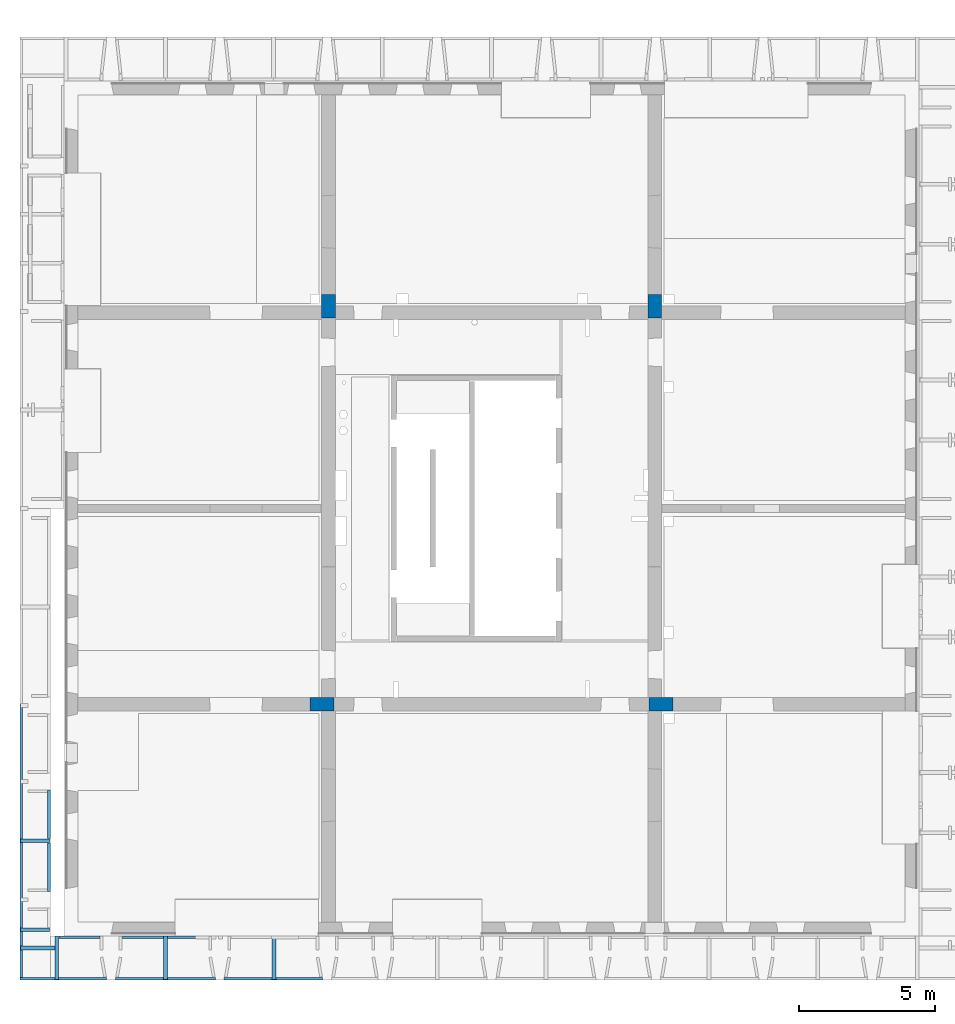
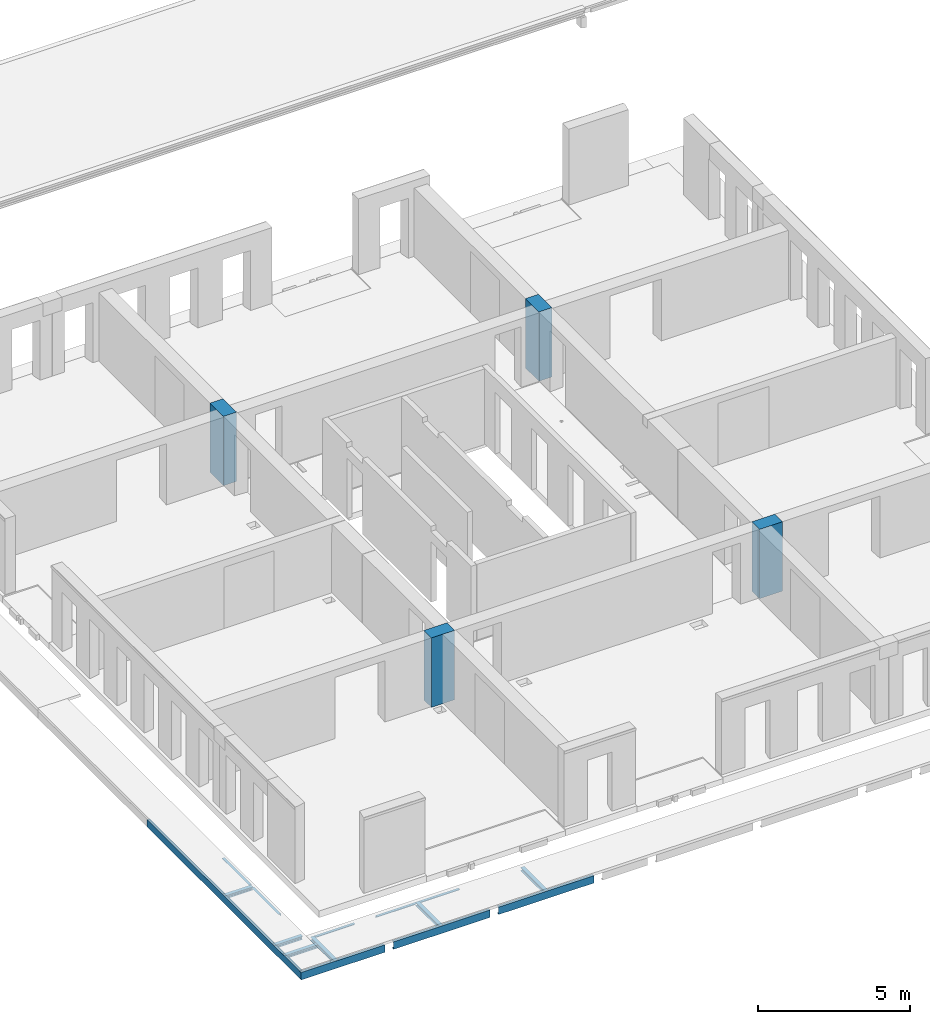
# One storey, part 1 of 27: 15 beams, 4 columns.
"""IFC2X3 building model written with IfcOpenShell, lengths in millimetres."""

from ifc_helpers import new_model, entity, si_unit, converted_unit, derived_unit, direction, frame, frame_2d, origin, origin_2d_with_axis, place, context, subcontext, project, spatial, polyline, circle_curve, parameter, trimmed, segment, composite_curve, rectangle, i_section, outline, extrude, source, transform, mapped, material, type_object, type_shapes, element, save


model = new_model("IFC2X3")

# Units and contexts
model_context = context("Model", 3, precision=0.01, world=origin(), true_north=direction((6.12303176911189e-17, 1.0)))
body_context = subcontext(model_context, "Body", "Model", "MODEL_VIEW")
ifc_project = project(units=[si_unit("LENGTHUNIT", "METRE", prefix="MILLI"), si_unit("AREAUNIT", "SQUARE_METRE"), si_unit("VOLUMEUNIT", "CUBIC_METRE"), converted_unit("PLANEANGLEUNIT", "DEGREE", entity("IfcRatioMeasure", 0.0174532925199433), si_unit("PLANEANGLEUNIT", "RADIAN"), dimensions=[0, 0, 0, 0, 0, 0, 0]), si_unit("MASSUNIT", "GRAM", prefix="KILO"), derived_unit("MASSDENSITYUNIT", [(si_unit("MASSUNIT", "GRAM", prefix="KILO"), 1), (si_unit("LENGTHUNIT", "METRE"), -3)]), si_unit("TIMEUNIT", "SECOND"), si_unit("FREQUENCYUNIT", "HERTZ"), si_unit("THERMODYNAMICTEMPERATUREUNIT", "DEGREE_CELSIUS"), derived_unit("THERMALTRANSMITTANCEUNIT", [(si_unit("MASSUNIT", "GRAM", prefix="KILO"), 1), (si_unit("THERMODYNAMICTEMPERATUREUNIT", "KELVIN"), -1), (si_unit("TIMEUNIT", "SECOND"), -3)]), derived_unit("VOLUMETRICFLOWRATEUNIT", [(si_unit("LENGTHUNIT", "METRE"), 3), (si_unit("TIMEUNIT", "SECOND"), -1)]), si_unit("ELECTRICCURRENTUNIT", "AMPERE"), si_unit("ELECTRICVOLTAGEUNIT", "VOLT"), si_unit("POWERUNIT", "WATT"), si_unit("FORCEUNIT", "NEWTON", prefix="KILO"), si_unit("ILLUMINANCEUNIT", "LUX"), si_unit("LUMINOUSFLUXUNIT", "LUMEN"), si_unit("LUMINOUSINTENSITYUNIT", "CANDELA"), derived_unit("USERDEFINED", [(si_unit("MASSUNIT", "GRAM", prefix="KILO"), -1), (si_unit("LENGTHUNIT", "METRE"), -2), (si_unit("TIMEUNIT", "SECOND"), 3), (si_unit("LUMINOUSFLUXUNIT", "LUMEN"), 1)]), derived_unit("LINEARVELOCITYUNIT", [(si_unit("LENGTHUNIT", "METRE"), 1), (si_unit("TIMEUNIT", "SECOND"), -1)]), si_unit("PRESSUREUNIT", "PASCAL"), derived_unit("USERDEFINED", [(si_unit("LENGTHUNIT", "METRE"), -2), (si_unit("MASSUNIT", "GRAM", prefix="KILO"), 1), (si_unit("TIMEUNIT", "SECOND"), -2)])], contexts=[model_context])

# Site, building, storey
site_placement = place(None, origin())
site = spatial("IfcSite", under=ifc_project, at=site_placement, Name="Default", CompositionType="ELEMENT")
building_placement = place(site_placement, origin())
building = spatial("IfcBuilding", under=site, at=building_placement, Name="niet gebruiken", CompositionType="ELEMENT")
storey_placement = place(building_placement, frame((0.0, 0.0, 18000.0)))
storey = spatial("IfcBuildingStorey", under=building, at=storey_placement, Name="05 vijfde verdieping", CompositionType="ELEMENT", Elevation=18000.0)

# Columns
ifc_material_1 = material(Name="NLRS_f2_beton ihwg")
column_type_1 = type_object("IfcColumnType", Name="500x880", PredefinedType="COLUMN", material=ifc_material_1)
shared_shape_1 = source(origin(), body_context, "Body", "SweptSolid", [
    extrude(rectangle(XDim=879.999999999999, YDim=500.000000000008, at=origin_2d_with_axis()), frame((135750.003540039, 24940.0, 17910.0), z_axis=(0.0, 0.0, 1.0), x_axis=(0.0, -1.0, 0.0)), (0.0, 0.0, 1.0), 2789.99999999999),
])
type_shapes(column_type_1, [shared_shape_1])
column_1_placement = place(storey_placement, frame((0.0, 0.0, -18000.0)))
element("IfcColumn", 1, at=column_1_placement, inside=storey, type_object=column_type_1, material=ifc_material_1, Name="NLRS_28.11_SCO_TLB_beton kolom ihwg_gen:500x880", ObjectType="500x880", context=body_context, shape_type="MappedRepresentation", body=[
    mapped(shared_shape_1, transform((0.0, 0.0, 0.0), scale=1.0)),
])
column_type_2 = type_object("IfcColumnType", Name="500x880", PredefinedType="COLUMN", material=ifc_material_1)
shared_shape_2 = source(origin(), body_context, "Body", "SweptSolid", [
    extrude(rectangle(XDim=879.999999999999, YDim=500.000000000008, at=origin_2d_with_axis()), frame((147750.0, 24940.0, 17910.0), z_axis=(0.0, 0.0, 1.0), x_axis=(0.0, -1.0, 0.0)), (0.0, 0.0, 1.0), 2789.99999999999),
])
type_shapes(column_type_2, [shared_shape_2])
column_2_placement = place(storey_placement, frame((0.0, 0.0, -18000.0)))
element("IfcColumn", 2, at=column_2_placement, inside=storey, type_object=column_type_2, material=ifc_material_1, Name="NLRS_28.11_SCO_TLB_beton kolom ihwg_gen:500x880", ObjectType="500x880", context=body_context, shape_type="MappedRepresentation", body=[
    mapped(shared_shape_2, transform((0.0, 0.0, 0.0), scale=1.0)),
])
column_type_3 = type_object("IfcColumnType", Name="500x880", PredefinedType="COLUMN", material=ifc_material_1)
shared_shape_3 = source(origin(), body_context, "Body", "SweptSolid", [
    extrude(rectangle(XDim=500.000000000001, YDim=880.000000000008, at=origin_2d_with_axis()), frame((135510.003540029, 10300.0115507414, 17910.0), z_axis=(0.0, 0.0, 1.0), x_axis=(0.0, -1.0, 0.0)), (0.0, 0.0, 1.0), 2789.99999999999),
])
type_shapes(column_type_3, [shared_shape_3])
column_3_placement = place(storey_placement, frame((0.0, 0.0, -18000.0)))
element("IfcColumn", 3, at=column_3_placement, inside=storey, type_object=column_type_3, material=ifc_material_1, Name="NLRS_28.11_SCO_TLB_beton kolom ihwg_gen:500x880", ObjectType="500x880", context=body_context, shape_type="MappedRepresentation", body=[
    mapped(shared_shape_3, transform((0.0, 0.0, 0.0), scale=1.0)),
])
column_type_4 = type_object("IfcColumnType", Name="500x880", PredefinedType="COLUMN", material=ifc_material_1)
shared_shape_4 = source(origin(), body_context, "Body", "SweptSolid", [
    extrude(rectangle(XDim=500.000000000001, YDim=880.000000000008, at=origin_2d_with_axis()), frame((147990.0, 10300.0, 17910.0), z_axis=(0.0, 0.0, 1.0), x_axis=(0.0, -1.0, 0.0)), (0.0, 0.0, 1.0), 2789.99999999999),
])
type_shapes(column_type_4, [shared_shape_4])
column_4_placement = place(storey_placement, frame((0.0, 0.0, -18000.0)))
element("IfcColumn", 4, at=column_4_placement, inside=storey, type_object=column_type_4, material=ifc_material_1, Name="NLRS_28.11_SCO_TLB_beton kolom ihwg_gen:500x880", ObjectType="500x880", context=body_context, shape_type="MappedRepresentation", body=[
    mapped(shared_shape_4, transform((0.0, 0.0, 0.0), scale=1.0)),
])

# Beams
ifc_material_2 = material(Name="NLRS_h2_staal")
beam_type_1 = type_object("IfcBeamType", Name="NLRS_28.11_SF_WPB_stalen ligger HEA_gen:ligger HEA 140", PredefinedType="BEAM")
beam_1_placement = place(storey_placement, frame((125490.0, 5275.0, -1015.0), z_axis=(0.0, 0.0, 1.0), x_axis=(-1.0, 0.0, 0.0)))
element("IfcBeam", 5, at=beam_1_placement, inside=storey, type_object=beam_type_1, material=ifc_material_2, Name="NLRS_28.11_SF_WPB_stalen ligger HEA_gen:ligger HEA 140", ObjectType="NLRS_28.11_SF_WPB_stalen ligger HEA_gen:ligger HEA 140", context=body_context, shape_type="SweptSolid", body=[
    extrude(i_section(OverallWidth=140.000000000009, OverallDepth=133.0, WebThickness=5.49999999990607, FlangeThickness=8.49999999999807, FilletRadius=11.9999999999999, at=frame_2d((-4.33431068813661e-12, -5.40012479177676e-13), x_axis=(0.0, 1.0))), frame((0.0, 0.0, -66.5000000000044), z_axis=(1.0, 0.0, 0.0), x_axis=(0.0, 0.0, -1.0)), (0.0, 0.0, 1.0), 1080.00000000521),
])
beam_2_placement = place(storey_placement, frame((129750.0, 160.0, -1015.0), z_axis=(0.0, 0.0, 1.0), x_axis=(0.0, 1.0, 0.0)))
element("IfcBeam", 6, at=beam_2_placement, inside=storey, type_object=beam_type_1, material=ifc_material_2, Name="NLRS_28.11_SF_WPB_stalen ligger HEA_gen:ligger HEA 140", ObjectType="NLRS_28.11_SF_WPB_stalen ligger HEA_gen:ligger HEA 140", context=body_context, shape_type="SweptSolid", body=[
    extrude(i_section(OverallWidth=140.000000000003, OverallDepth=133.0, WebThickness=5.49999999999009, FlangeThickness=8.49999999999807, FilletRadius=11.9999999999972, at=frame_2d((-4.33431068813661e-12, 1.73301373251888e-11), x_axis=(0.0, 1.0))), frame((0.0, 0.0, -66.5000000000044), z_axis=(1.0, 0.0, 0.0), x_axis=(0.0, 0.0, -1.0)), (0.0, 0.0, 1.0), 1610.0),
])
for number, where, z_axis, x_axis, name in (
    (7, (133750.0, 160.0, -1015.0), (0.0, 0.0, 1.0), (0.0, 1.0, 0.0), "NLRS_28.11_SF_WPB_stalen ligger HEA_gen:ligger HEA 140"),
    (8, (125750.0, 160.0, -1015.0), (0.0, 0.0, 1.0), (0.0, 1.0, 0.0), "NLRS_28.11_SF_WPB_stalen ligger HEA_gen:ligger HEA 140"),
):
    element("IfcBeam", number, at=place(storey_placement, frame(where, z_axis=z_axis, x_axis=x_axis)), inside=storey, type_object=beam_type_1, material=ifc_material_2, Name=name, ObjectType="NLRS_28.11_SF_WPB_stalen ligger HEA_gen:ligger HEA 140", context=body_context, shape_type="SweptSolid", body=[
        extrude(i_section(OverallWidth=140.000000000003, OverallDepth=133.0, WebThickness=5.49999999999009, FlangeThickness=8.49999999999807, FilletRadius=11.9999999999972, at=frame_2d((-4.33431068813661e-12, 0.0), x_axis=(0.0, 1.0))), frame((0.0, 0.0, -66.5000000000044), z_axis=(1.0, 0.0, 0.0), x_axis=(0.0, 0.0, -1.0)), (0.0, 0.0, 1.0), 1610.0),
    ])
beam_3_placement = place(storey_placement, frame((125680.0, 1324.0, -1015.0), z_axis=(0.0, 0.0, 1.0), x_axis=(-1.0, 0.0, 0.0)))
element("IfcBeam", 9, at=beam_3_placement, inside=storey, type_object=beam_type_1, material=ifc_material_2, Name="NLRS_28.11_SF_WPB_stalen ligger HEA_gen:ligger HEA 140", ObjectType="NLRS_28.11_SF_WPB_stalen ligger HEA_gen:ligger HEA 140", context=body_context, shape_type="SweptSolid", body=[
    extrude(i_section(OverallWidth=140.00000000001, OverallDepth=133.0, WebThickness=5.49999999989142, FlangeThickness=8.49999999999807, FilletRadius=11.9999999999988, at=frame_2d((-4.33431068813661e-12, -1.35003119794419e-13), x_axis=(0.0, 1.0))), frame((0.0, 0.0, -66.5000000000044), z_axis=(1.0, 0.0, 0.0), x_axis=(0.0, 0.0, -1.0)), (0.0, 0.0, 1.0), 1270.0000000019),
])
beam_4_placement = place(storey_placement, frame((125490.0, 2000.0, -1015.0), z_axis=(0.0, 0.0, 1.0), x_axis=(-1.0, 0.0, 0.0)))
element("IfcBeam", 10, at=beam_4_placement, inside=storey, type_object=beam_type_1, material=ifc_material_2, Name="NLRS_28.11_SF_WPB_stalen ligger HEA_gen:ligger HEA 140", ObjectType="NLRS_28.11_SF_WPB_stalen ligger HEA_gen:ligger HEA 140", context=body_context, shape_type="SweptSolid", body=[
    extrude(i_section(OverallWidth=140.000000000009, OverallDepth=133.0, WebThickness=5.49999999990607, FlangeThickness=8.49999999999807, FilletRadius=11.9999999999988, at=frame_2d((-4.33431068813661e-12, -1.35003119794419e-13), x_axis=(0.0, 1.0))), frame((0.0, 0.0, -66.5000000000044), z_axis=(1.0, 0.0, 0.0), x_axis=(0.0, 0.0, -1.0)), (0.0, 0.0, 1.0), 1080.00000000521),
])
beam_type_2 = type_object("IfcBeamType", Name="NLRS_28.11_SF_WPB_stalen ligger UNP_gen:ligger UNP 300", PredefinedType="BEAM")
beam_5_placement = place(storey_placement, frame((124427.0, 10300.0, -1015.0), z_axis=(0.0, 0.0, 1.0), x_axis=(0.0, -1.0, 0.0)))
element("IfcBeam", 11, at=beam_5_placement, inside=storey, type_object=beam_type_2, material=ifc_material_2, Name="NLRS_28.11_SF_WPB_stalen ligger UNP_gen:ligger UNP 300", ObjectType="NLRS_28.11_SF_WPB_stalen ligger UNP_gen:ligger UNP 300", context=body_context, shape_type="SweptSolid", body=[
    extrude(outline(composite_curve([segment(polyline([(-150.062397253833, -54.6666666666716), (149.937602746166, -54.6666666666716)]), True, "CONTINUOUS"), segment(polyline([(149.937602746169, -54.6666666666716), (149.937602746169, 45.333333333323)]), True, "CONTINUOUS"), segment(polyline([(149.937602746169, 45.333333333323), (142.655201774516, 45.333333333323)]), True, "CONTINUOUS"), segment(trimmed(circle_curve(frame_2d((142.655201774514, 37.3333333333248), x_axis=(0.0, 1.0)), 7.99999999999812), [parameter(0.0)], [parameter(90.0000000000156)], True, "PARAMETER"), True, "CONTINUOUS"), segment(polyline([(134.655201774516, 37.3333333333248), (130.39041273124, -28.6666666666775)]), True, "CONTINUOUS"), segment(trimmed(circle_curve(frame_2d((114.39041273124, -28.6666666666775), x_axis=(1.0, 0.0)), 15.9999999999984), [parameter(270.0)], [parameter(0.0)], True, "PARAMETER"), False, "CONTINUOUS"), segment(polyline([(114.390412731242, -44.6666666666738), (-113.875860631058, -44.6666666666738)]), True, "CONTINUOUS"), segment(trimmed(circle_curve(frame_2d((-113.875860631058, -28.6666666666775), x_axis=(0.0, -1.0)), 15.9999999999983), [parameter(270.0)], [parameter(0.0)], True, "PARAMETER"), False, "CONTINUOUS"), segment(polyline([(-129.875860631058, -28.6666666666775), (-135.044959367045, 37.3333333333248)]), True, "CONTINUOUS"), segment(trimmed(circle_curve(frame_2d((-143.044959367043, 37.3333333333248), x_axis=(1.0, 0.0)), 7.9999999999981), [parameter(0.0)], [parameter(90.0000000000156)], True, "PARAMETER"), True, "CONTINUOUS"), segment(polyline([(-143.044959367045, 45.333333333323), (-150.062397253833, 45.333333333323)]), True, "CONTINUOUS"), segment(polyline([(-150.062397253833, 45.333333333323), (-150.062397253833, -54.6666666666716)]), True, "CONTINUOUS")], self_intersect=False)), frame((6.09606547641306e-07, 27.6666666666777, -150.062397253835), z_axis=(1.0, 0.0, 0.0), x_axis=(0.0, 0.0, -1.0)), (0.0, 0.0, 1.0), 10149.9999993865),
])
beam_6_placement = place(storey_placement, frame((131585.0, 177.0, -1015.0), z_axis=(0.0, 0.0, 1.0), x_axis=(-1.0, 0.0, 0.0)))
element("IfcBeam", 12, at=beam_6_placement, inside=storey, type_object=beam_type_2, material=ifc_material_2, Name="NLRS_28.11_SF_WPB_stalen ligger UNP_gen:ligger UNP 300", ObjectType="NLRS_28.11_SF_WPB_stalen ligger UNP_gen:ligger UNP 300", context=body_context, shape_type="SweptSolid", body=[
    extrude(outline(composite_curve([segment(polyline([(-149.937602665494, -45.3333336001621), (-142.655201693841, -45.3333336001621)]), True, "CONTINUOUS"), segment(trimmed(circle_curve(frame_2d((-142.655201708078, -37.3333335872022), x_axis=(1.77959691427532e-09, -1.0)), 8.00000000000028), [parameter(0.0)], [parameter(89.9999999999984)], True, "PARAMETER"), True, "CONTINUOUS"), segment(polyline([(-134.655201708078, -37.3333335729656), (-130.390412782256, 28.6666664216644)]), True, "CONTINUOUS"), segment(trimmed(circle_curve(frame_2d((-114.390412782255, 28.6666664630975), x_axis=(-1.0, -1.7795827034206e-09)), 16.0), [parameter(270.000000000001)], [parameter(0.0)], True, "PARAMETER"), False, "CONTINUOUS"), segment(polyline([(-114.390412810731, 44.6666664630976), (113.875860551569, 44.66666685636)]), True, "CONTINUOUS"), segment(trimmed(circle_curve(frame_2d((113.875860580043, 28.6666668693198), x_axis=(-1.77959691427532e-09, 1.0)), 15.9999999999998), [parameter(270.0)], [parameter(0.0)], True, "PARAMETER"), False, "CONTINUOUS"), segment(polyline([(129.875860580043, 28.6666668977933), (135.044959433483, -37.3333331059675)]), True, "CONTINUOUS"), segment(trimmed(circle_curve(frame_2d((143.044959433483, -37.3333330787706), x_axis=(-1.0, -1.77961823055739e-09)), 8.00000000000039), [parameter(0.0)], [parameter(89.9999999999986)], True, "PARAMETER"), True, "CONTINUOUS"), segment(polyline([(143.04495944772, -45.3333330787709), (150.062397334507, -45.3333330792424)]), True, "CONTINUOUS"), segment(polyline([(150.062397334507, -45.3333330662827), (150.062397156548, 54.6666669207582)]), True, "CONTINUOUS"), segment(polyline([(150.062397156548, 54.666666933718), (-149.937602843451, 54.666666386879)]), True, "CONTINUOUS"), segment(polyline([(-149.937602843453, 54.6666663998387), (-149.937602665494, -45.3333336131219)]), True, "CONTINUOUS")], self_intersect=False)), frame((0.0, -27.6666666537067, -149.937602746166), z_axis=(1.0, 0.0, 0.0), x_axis=(0.0, -1.77959439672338e-09, -1.0)), (0.0, 0.0, 1.0), 3673.03330011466),
])
beam_7_placement = place(storey_placement, frame((135531.966699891, 177.0, -1015.0), z_axis=(0.0, 0.0, 1.0), x_axis=(-1.0, 0.0, 0.0)))
element("IfcBeam", 13, at=beam_7_placement, inside=storey, type_object=beam_type_2, material=ifc_material_2, Name="NLRS_28.11_SF_WPB_stalen ligger UNP_gen:ligger UNP 300", ObjectType="NLRS_28.11_SF_WPB_stalen ligger UNP_gen:ligger UNP 300", context=body_context, shape_type="SweptSolid", body=[
    extrude(outline(composite_curve([segment(polyline([(-149.937602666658, -45.3333335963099), (-142.655201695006, -45.3333335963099)]), True, "CONTINUOUS"), segment(trimmed(circle_curve(frame_2d((-142.655201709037, -37.3333335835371), x_axis=(1.75390368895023e-09, -1.0)), 8.00000000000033), [parameter(0.0)], [parameter(89.9999999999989)], True, "PARAMETER"), True, "CONTINUOUS"), segment(polyline([(-134.655201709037, -37.333333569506), (-130.390412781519, 28.6666664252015)]), True, "CONTINUOUS"), segment(trimmed(circle_curve(frame_2d((-114.390412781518, 28.6666664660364), x_axis=(-1.0, -1.75388947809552e-09)), 16.0), [parameter(270.000000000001)], [parameter(0.0)], True, "PARAMETER"), False, "CONTINUOUS"), segment(polyline([(-114.390412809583, 44.6666664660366), (113.875860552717, 44.6666668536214)]), True, "CONTINUOUS"), segment(trimmed(circle_curve(frame_2d((113.875860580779, 28.6666668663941), x_axis=(-1.75390368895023e-09, 1.0)), 15.9999999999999), [parameter(270.0)], [parameter(0.0)], True, "PARAMETER"), False, "CONTINUOUS"), segment(polyline([(129.875860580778, 28.6666668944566), (135.044959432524, -37.3333331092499)]), True, "CONTINUOUS"), segment(trimmed(circle_curve(frame_2d((143.044959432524, -37.3333330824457), x_axis=(-1.0, -1.7539250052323e-09)), 8.00000000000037), [parameter(0.0)], [parameter(89.9999999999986)], True, "PARAMETER"), True, "CONTINUOUS"), segment(polyline([(143.044959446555, -45.333333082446), (150.062397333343, -45.3333330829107)]), True, "CONTINUOUS"), segment(polyline([(150.062397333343, -45.3333330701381), (150.062397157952, 54.66666691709)]), True, "CONTINUOUS"), segment(polyline([(150.062397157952, 54.6666669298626), (-149.937602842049, 54.6666663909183)]), True, "CONTINUOUS"), segment(polyline([(-149.937602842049, 54.6666664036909), (-149.937602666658, -45.3333336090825)]), True, "CONTINUOUS")], self_intersect=False)), frame((0.0, -27.6666666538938, -149.937602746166), z_axis=(1.0, 0.0, 0.0), x_axis=(0.0, -1.75390243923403e-09, -1.0)), (0.0, 0.0, 1.0), 3620.00000000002),
])
beam_8_placement = place(storey_placement, frame((127580.0, 177.0, -1015.0), z_axis=(0.0, 0.0, 1.0), x_axis=(-1.0, 0.0, 0.0)))
element("IfcBeam", 14, at=beam_8_placement, inside=storey, type_object=beam_type_2, material=ifc_material_2, Name="NLRS_28.11_SF_WPB_stalen ligger UNP_gen:ligger UNP 300", ObjectType="NLRS_28.11_SF_WPB_stalen ligger UNP_gen:ligger UNP 300", context=body_context, shape_type="SweptSolid", body=[
    extrude(outline(composite_curve([segment(polyline([(-149.937602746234, -45.3333333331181), (-142.655201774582, -45.3333333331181)]), True, "CONTINUOUS"), segment(trimmed(circle_curve(frame_2d((-142.65520177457, -37.3333333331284), x_axis=(0.0, -1.0)), 8.00000000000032), [parameter(0.0)], [parameter(89.9999999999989)], True, "PARAMETER"), True, "CONTINUOUS"), segment(polyline([(-134.65520177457, -37.33333333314), (-130.390412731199, 28.6666666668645)]), True, "CONTINUOUS"), segment(trimmed(circle_curve(frame_2d((-114.390412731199, 28.6666666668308), x_axis=(-1.0, 0.0)), 16.0), [parameter(270.000000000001)], [parameter(0.0)], True, "PARAMETER"), False, "CONTINUOUS"), segment(polyline([(-114.390412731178, 44.6666666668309), (113.875860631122, 44.6666666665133)]), True, "CONTINUOUS"), segment(trimmed(circle_curve(frame_2d((113.875860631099, 28.6666666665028), x_axis=(0.0, 1.0)), 15.9999999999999), [parameter(270.0)], [parameter(0.0)], True, "PARAMETER"), False, "CONTINUOUS"), segment(polyline([(129.875860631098, 28.6666666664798), (135.044959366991, -37.333333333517)]), True, "CONTINUOUS"), segment(trimmed(circle_curve(frame_2d((143.044959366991, -37.3333333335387), x_axis=(-1.0, 0.0)), 8.00000000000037), [parameter(0.0)], [parameter(89.9999999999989)], True, "PARAMETER"), True, "CONTINUOUS"), segment(polyline([(143.04495936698, -45.333333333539), (150.062397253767, -45.3333333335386)]), True, "CONTINUOUS"), segment(polyline([(150.062397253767, -45.3333333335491), (150.062397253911, 54.666666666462)]), True, "CONTINUOUS"), segment(polyline([(150.062397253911, 54.6666666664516), (-149.93760274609, 54.6666666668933)]), True, "CONTINUOUS"), segment(polyline([(-149.93760274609, 54.6666666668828), (-149.937602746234, -45.3333333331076)]), True, "CONTINUOUS")], self_intersect=False)), frame((0.0, -27.6666666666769, -149.937602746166), z_axis=(1.0, 0.0, 0.0), x_axis=(0.0, 0.0, -1.0)), (0.0, 0.0, 1.0), 3180.00000000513),
])
beam_type_3 = type_object("IfcBeamType", Name="NLRS_28.11_SF_WPB_stalen ligger hoekprofiel gelijkzijdig_gen:ligger gelijzijdig hoekprofiel LEQU_100x100x10", PredefinedType="BEAM")
beam_9_placement = place(storey_placement, frame((125520.0, 7150.0, -1015.0), z_axis=(0.0, 0.0, 1.0), x_axis=(0.0, -1.0, 0.0)))
element("IfcBeam", 15, at=beam_9_placement, inside=storey, type_object=beam_type_3, material=ifc_material_2, Name="NLRS_28.11_SF_WPB_stalen ligger hoekprofiel gelijkzijdig_gen:ligger gelijzijdig hoekprofiel LEQU_100x100x10", ObjectType="NLRS_28.11_SF_WPB_stalen ligger hoekprofiel gelijkzijdig_gen:ligger gelijzijdig hoekprofiel LEQU_100x100x10", context=body_context, shape_type="SweptSolid", body=[
    extrude(outline(composite_curve([segment(polyline([(-37.7777777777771, -62.2222222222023), (-33.7777777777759, -62.2222222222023)]), True, "CONTINUOUS"), segment(trimmed(circle_curve(frame_2d((-33.7777777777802, -56.2222222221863), x_axis=(0.0, -1.0)), 6.00000000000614), [parameter(0.0)], [parameter(89.9999999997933)], True, "PARAMETER"), True, "CONTINUOUS"), segment(polyline([(-27.7777777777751, -56.2222222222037), (-27.7777777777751, 15.7777777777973)]), True, "CONTINUOUS"), segment(trimmed(circle_curve(frame_2d((-15.7777777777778, 15.7777777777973), x_axis=(-1.0, 0.0)), 11.9999999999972), [parameter(269.99999999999)], [parameter(0.0)], True, "PARAMETER"), False, "CONTINUOUS"), segment(polyline([(-15.7777777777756, 27.7777777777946), (56.2222222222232, 27.7777777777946)]), True, "CONTINUOUS"), segment(trimmed(circle_curve(frame_2d((56.2222222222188, 33.7777777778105), x_axis=(0.0, -1.0)), 6.00000000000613), [parameter(0.0)], [parameter(89.9999999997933)], True, "PARAMETER"), True, "CONTINUOUS"), segment(polyline([(62.222222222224, 33.7777777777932), (62.222222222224, 37.7777777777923)]), True, "CONTINUOUS"), segment(polyline([(62.222222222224, 37.7777777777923), (-37.7777777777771, 37.7777777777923)]), True, "CONTINUOUS"), segment(polyline([(-37.7777777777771, 37.7777777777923), (-37.7777777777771, -62.2222222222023)]), True, "CONTINUOUS")], self_intersect=False)), frame((10.0000006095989, -37.7777777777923, -37.7777777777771), z_axis=(1.0, 0.0, 0.0), x_axis=(0.0, 0.0, -1.0)), (0.0, 0.0, 1.0), 1784.9999993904),
])
beam_10_placement = place(storey_placement, frame((125520.0, 5275.0, -1015.0), z_axis=(0.0, 0.0, 1.0), x_axis=(0.0, -1.0, 0.0)))
element("IfcBeam", 16, at=beam_10_placement, inside=storey, type_object=beam_type_3, material=ifc_material_2, Name="NLRS_28.11_SF_WPB_stalen ligger hoekprofiel gelijkzijdig_gen:ligger gelijzijdig hoekprofiel LEQU_100x100x10", ObjectType="NLRS_28.11_SF_WPB_stalen ligger hoekprofiel gelijkzijdig_gen:ligger gelijzijdig hoekprofiel LEQU_100x100x10", context=body_context, shape_type="SweptSolid", body=[
    extrude(outline(composite_curve([segment(polyline([(-37.7777777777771, -62.2222222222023), (-33.7777777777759, -62.2222222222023)]), True, "CONTINUOUS"), segment(trimmed(circle_curve(frame_2d((-33.7777777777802, -56.2222222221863), x_axis=(0.0, -1.0)), 6.00000000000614), [parameter(0.0)], [parameter(89.9999999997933)], True, "PARAMETER"), True, "CONTINUOUS"), segment(polyline([(-27.7777777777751, -56.2222222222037), (-27.7777777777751, 15.7777777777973)]), True, "CONTINUOUS"), segment(trimmed(circle_curve(frame_2d((-15.7777777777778, 15.7777777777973), x_axis=(-1.0, 0.0)), 11.9999999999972), [parameter(269.99999999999)], [parameter(0.0)], True, "PARAMETER"), False, "CONTINUOUS"), segment(polyline([(-15.7777777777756, 27.7777777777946), (56.2222222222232, 27.7777777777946)]), True, "CONTINUOUS"), segment(trimmed(circle_curve(frame_2d((56.2222222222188, 33.7777777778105), x_axis=(0.0, -1.0)), 6.00000000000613), [parameter(0.0)], [parameter(89.9999999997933)], True, "PARAMETER"), True, "CONTINUOUS"), segment(polyline([(62.222222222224, 33.7777777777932), (62.222222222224, 37.7777777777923)]), True, "CONTINUOUS"), segment(polyline([(62.222222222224, 37.7777777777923), (-37.7777777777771, 37.7777777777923)]), True, "CONTINUOUS"), segment(polyline([(-37.7777777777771, 37.7777777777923), (-37.7777777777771, -62.2222222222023)]), True, "CONTINUOUS")], self_intersect=False)), frame((80.0000006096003, -37.7777777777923, -37.7777777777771), z_axis=(1.0, 0.0, 0.0), x_axis=(0.0, 0.0, -1.0)), (0.0, 0.0, 1.0), 1782.29999939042),
])
beam_11_placement = place(storey_placement, frame((131330.0, 1670.0, -1015.0), z_axis=(0.0, 0.0, 1.0), x_axis=(-1.0, 0.0, 0.0)))
element("IfcBeam", 17, at=beam_11_placement, inside=storey, type_object=beam_type_3, material=ifc_material_2, Name="NLRS_28.11_SF_WPB_stalen ligger hoekprofiel gelijkzijdig_gen:ligger gelijzijdig hoekprofiel LEQU_100x100x10", ObjectType="NLRS_28.11_SF_WPB_stalen ligger hoekprofiel gelijkzijdig_gen:ligger gelijzijdig hoekprofiel LEQU_100x100x10", context=body_context, shape_type="SweptSolid", body=[
    extrude(outline(composite_curve([segment(polyline([(-37.7777777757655, -37.7777777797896), (62.2222222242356, -37.7777777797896)]), True, "CONTINUOUS"), segment(polyline([(62.2222222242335, -37.7777777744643), (62.2222222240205, -33.7777777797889)]), True, "CONTINUOUS"), segment(trimmed(circle_curve(frame_2d((56.2222222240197, -33.7777777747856), x_axis=(1.0, 0.0)), 6.0000000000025), [parameter(0.0)], [parameter(89.9999999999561)], True, "PARAMETER"), True, "CONTINUOUS"), segment(polyline([(56.2222222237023, -27.7777777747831), (-15.7777777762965, -27.7777777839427)]), True, "CONTINUOUS"), segment(trimmed(circle_curve(frame_2d((-15.7777777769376, -15.7777777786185), x_axis=(0.0, -1.0)), 11.9999999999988), [parameter(269.999999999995)], [parameter(0.0)], True, "PARAMETER"), False, "CONTINUOUS"), segment(polyline([(-27.7777777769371, -15.7777777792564), (-27.7777777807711, 56.2222222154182)]), True, "CONTINUOUS"), segment(trimmed(circle_curve(frame_2d((-33.777777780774, 56.2222222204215), x_axis=(1.0, 0.0)), 6.0000000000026), [parameter(0.0)], [parameter(89.9999999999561)], True, "PARAMETER"), True, "CONTINUOUS"), segment(polyline([(-33.7777777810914, 62.2222222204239), (-37.7777777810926, 62.2222222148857)]), True, "CONTINUOUS"), segment(polyline([(-37.7777777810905, 62.2222222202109), (-37.7777777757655, -37.7777777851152)]), True, "CONTINUOUS")], self_intersect=False)), frame((0.0, -62.2222222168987, -37.7777777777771), z_axis=(1.0, 0.0, 0.0), x_axis=(0.0, 0.0, -1.0)), (0.0, 0.0, 1.0), 1510.00000000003),
])
beam_12_placement = place(storey_placement, frame((129750.0, 1670.0, -1015.0), z_axis=(0.0, 0.0, 1.0), x_axis=(-1.0, 0.0, 0.0)))
element("IfcBeam", 18, at=beam_12_placement, inside=storey, type_object=beam_type_3, material=ifc_material_2, Name="NLRS_28.11_SF_WPB_stalen ligger hoekprofiel gelijkzijdig_gen:ligger gelijzijdig hoekprofiel LEQU_100x100x10", ObjectType="NLRS_28.11_SF_WPB_stalen ligger hoekprofiel gelijkzijdig_gen:ligger gelijzijdig hoekprofiel LEQU_100x100x10", context=body_context, shape_type="SweptSolid", body=[
    extrude(outline(composite_curve([segment(polyline([(-37.7777777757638, -37.7777777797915), (62.2222222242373, -37.7777777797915)]), True, "CONTINUOUS"), segment(polyline([(62.2222222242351, -37.7777777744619), (62.2222222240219, -33.7777777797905)]), True, "CONTINUOUS"), segment(trimmed(circle_curve(frame_2d((56.2222222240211, -33.7777777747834), x_axis=(1.0, 0.0)), 6.0000000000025), [parameter(0.0)], [parameter(89.9999999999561)], True, "PARAMETER"), True, "CONTINUOUS"), segment(polyline([(56.2222222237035, -27.777777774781), (-15.7777777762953, -27.7777777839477)]), True, "CONTINUOUS"), segment(trimmed(circle_curve(frame_2d((-15.777777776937, -15.7777777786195), x_axis=(0.0, -1.0)), 11.9999999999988), [parameter(269.999999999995)], [parameter(0.0)], True, "PARAMETER"), False, "CONTINUOUS"), segment(polyline([(-27.7777777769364, -15.7777777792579), (-27.7777777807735, 56.2222222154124)]), True, "CONTINUOUS"), segment(trimmed(circle_curve(frame_2d((-33.7777777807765, 56.2222222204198), x_axis=(1.0, 0.0)), 6.0000000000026), [parameter(0.0)], [parameter(89.9999999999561)], True, "PARAMETER"), True, "CONTINUOUS"), segment(polyline([(-33.7777777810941, 62.2222222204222), (-37.7777777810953, 62.2222222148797)]), True, "CONTINUOUS"), segment(polyline([(-37.7777777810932, 62.222222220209), (-37.7777777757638, -37.7777777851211)]), True, "CONTINUOUS")], self_intersect=False)), frame((70.0, -62.2222222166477, -37.7777777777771), z_axis=(1.0, 0.0, 0.0), x_axis=(0.0, 0.0, -1.0)), (0.0, 0.0, 1.0), 1510.00000000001),
])
beam_13_placement = place(storey_placement, frame((127350.0, 1770.0, -1015.0), z_axis=(0.0, 0.0, 1.0), x_axis=(-1.0, 0.0, 0.0)))
element("IfcBeam", 19, at=beam_13_placement, inside=storey, type_object=beam_type_3, material=ifc_material_2, Name="NLRS_28.11_SF_WPB_stalen ligger hoekprofiel gelijkzijdig_gen:ligger gelijzijdig hoekprofiel LEQU_100x100x10", ObjectType="NLRS_28.11_SF_WPB_stalen ligger hoekprofiel gelijkzijdig_gen:ligger gelijzijdig hoekprofiel LEQU_100x100x10", context=body_context, shape_type="SweptSolid", body=[
    extrude(outline(composite_curve([segment(polyline([(-37.7777777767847, -37.7777777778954), (62.2222222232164, -37.7777777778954)]), True, "CONTINUOUS"), segment(polyline([(62.2222222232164, -37.7777777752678), (62.2222222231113, -33.7777777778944)]), True, "CONTINUOUS"), segment(trimmed(circle_curve(frame_2d((56.2222222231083, -33.7777777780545), x_axis=(1.0, 0.0)), 6.00000000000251), [parameter(0.0)], [parameter(89.9999999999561)], True, "PARAMETER"), True, "CONTINUOUS"), segment(polyline([(56.2222222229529, -27.7777777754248), (-15.7777777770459, -27.7777777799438)]), True, "CONTINUOUS"), segment(trimmed(circle_curve(frame_2d((-15.7777777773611, -15.7777777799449), x_axis=(0.0, -1.0)), 11.9999999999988), [parameter(269.999999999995)], [parameter(0.0)], True, "PARAMETER"), False, "CONTINUOUS"), segment(polyline([(-27.7777777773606, -15.777777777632), (-27.777777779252, 56.2222222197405)]), True, "CONTINUOUS"), segment(trimmed(circle_curve(frame_2d((-33.777777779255, 56.2222222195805), x_axis=(1.0, 0.0)), 6.00000000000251), [parameter(0.0)], [parameter(89.9999999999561)], True, "PARAMETER"), True, "CONTINUOUS"), segment(polyline([(-33.7777777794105, 62.2222222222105), (-37.7777777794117, 62.2222222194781)]), True, "CONTINUOUS"), segment(polyline([(-37.7777777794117, 62.2222222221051), (-37.7777777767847, -37.7777777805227)]), True, "CONTINUOUS")], self_intersect=False)), frame((12.3561763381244, 37.77777777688, -37.7777777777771), z_axis=(1.0, 0.0, 0.0), x_axis=(0.0, 0.0, -1.0)), (0.0, 0.0, 1.0), 1504.94382366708),
])

save(model, "model.ifc")
